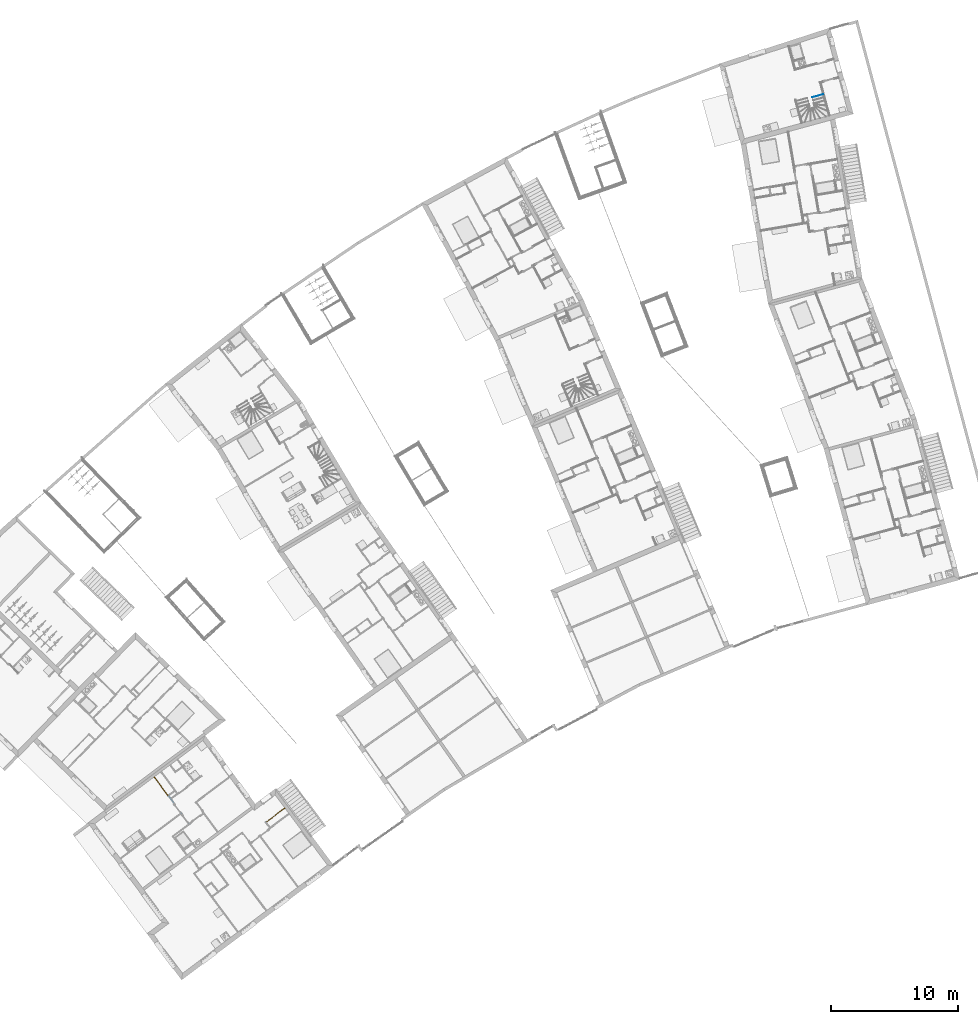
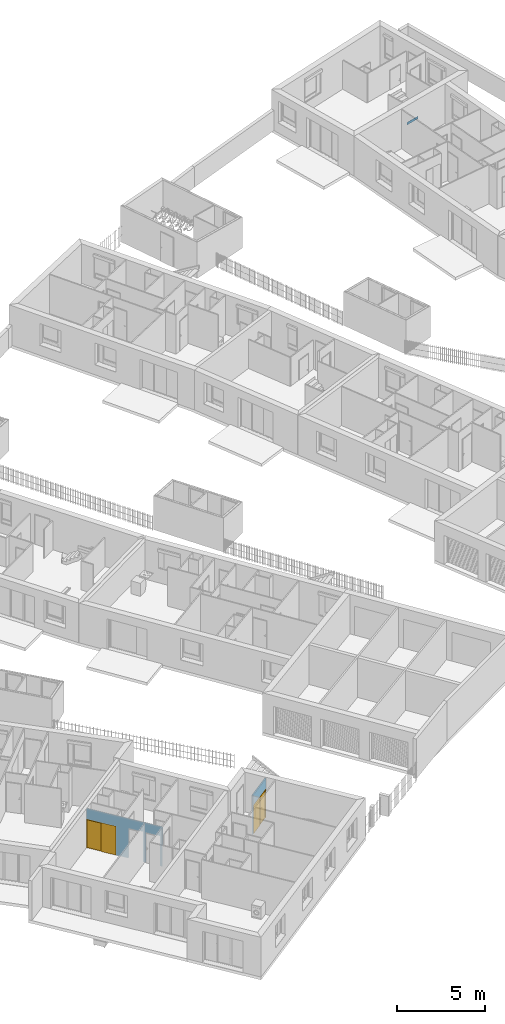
# One storey, part 106 of 195: 2 doors, 2 members, 4 openings, 2 elements without a shape of their own, plus 2 elements that do not belong to this part.
"""IFC2X3 building model written with IfcOpenShell, lengths in metres."""

from ifc_helpers import new_model, entity, si_unit, converted_unit, derived_unit, money_unit, direction, frame, origin_with_axes, origin_2d_with_axis, place, context, subcontext, project, spatial, polyline, rectangle, outline, extrude, open_shell, faceted_brep, surface_model, material, layer, layer_set, layer_usage, type_object, element, fill, aggregate, save


model = new_model("IFC2X3")

# Units and contexts
model_context = context("Model", 3, precision=1e-05, world=origin_with_axes(), true_north=direction((0.0, 1.0)))
body_context = subcontext(model_context, "Body", "Model", "MODEL_VIEW")
ifc_project = project(units=[si_unit("LENGTHUNIT", "METRE"), si_unit("AREAUNIT", "SQUARE_METRE"), si_unit("VOLUMEUNIT", "CUBIC_METRE"), converted_unit("PLANEANGLEUNIT", "DEGREE", entity("IfcPlaneAngleMeasure", 0.0174532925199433), si_unit("PLANEANGLEUNIT", "RADIAN"), dimensions=[0, 0, 0, 0, 0, 0, 0]), money_unit("CHF"), converted_unit("TIMEUNIT", "Year", entity("IfcTimeMeasure", 31557600.0), si_unit("TIMEUNIT", "SECOND"), dimensions=[0, 0, 1, 0, 0, 0, 0]), si_unit("MASSUNIT", "GRAM", prefix="KILO"), si_unit("THERMODYNAMICTEMPERATUREUNIT", "DEGREE_CELSIUS"), si_unit("LUMINOUSINTENSITYUNIT", "LUMEN"), si_unit("ENERGYUNIT", "JOULE", prefix="MEGA"), derived_unit("THERMALCONDUCTANCEUNIT", [(si_unit("POWERUNIT", "WATT"), 1), (si_unit("LENGTHUNIT", "METRE"), -1), (si_unit("THERMODYNAMICTEMPERATUREUNIT", "KELVIN"), -1)]), derived_unit("SPECIFICHEATCAPACITYUNIT", [(si_unit("ENERGYUNIT", "JOULE"), 1), (si_unit("MASSUNIT", "GRAM", prefix="KILO"), -1), (si_unit("THERMODYNAMICTEMPERATUREUNIT", "KELVIN"), -1)]), derived_unit("MASSDENSITYUNIT", [(si_unit("MASSUNIT", "GRAM", prefix="KILO"), 1), (si_unit("VOLUMEUNIT", "CUBIC_METRE"), -1)])], contexts=[model_context])

# Site, building, storey
site_placement = place(None, origin_with_axes())
site = spatial("IfcSite", under=ifc_project, at=site_placement, Name="Site", CompositionType="ELEMENT")
building_placement = place(site_placement, origin_with_axes())
building = spatial("IfcBuilding", under=site, at=building_placement, Name="Bâtiment", CompositionType="ELEMENT")
storey_placement = place(building_placement, origin_with_axes())
storey = spatial("IfcBuildingStorey", under=building, at=storey_placement, Name="rdc", CompositionType="ELEMENT", Elevation=0.0)

# Stair, member
stair_1_placement = place(storey_placement, frame((9586.532297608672, -1019.891691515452, 57.0), z_axis=(0.0, 0.0, 1.0), x_axis=(0.2627338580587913, -0.9648683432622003, 0.0)))
stair_1 = element("IfcStair", 1, at=stair_1_placement, inside=storey, Name="ESC-014", ShapeType="NOTDEFINED")
ifc_material_1 = material(Name="Lame d'air 275581351")
member_type = type_object("IfcMemberType", Name="IfcMember", PredefinedType="NOTDEFINED")
member_1_placement = place(stair_1_placement, frame((-0.8678427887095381, -0.4260619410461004, 0.1700000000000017), z_axis=(0.0, 0.0, 1.0), x_axis=(2.365009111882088e-07, -0.9999999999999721, 0.0)))
member_1 = element("IfcMember", 2, at=member_1_placement, type_object=member_type, material=ifc_material_1, Name="C-MARCHE-231", context=body_context, shape_type="Brep", body=[
    faceted_brep([(0.46, 0.01500000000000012, 0.0), (0.46, 0.02500000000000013, 0.0), (-0.44, 0.02500000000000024, 0.0), (-0.44, 0.01500000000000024, 0.0), (0.46, 0.01500000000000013, -0.17), (0.46, 0.02500000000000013, -0.17), (-0.44, 0.02500000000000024, -0.17), (-0.44, 0.01500000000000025, -0.17)], [[[0, 1, 2, 3]], [[0, 4, 5, 1]], [[1, 5, 6, 2]], [[3, 2, 6, 7]], [[4, 0, 3, 7]], [[5, 4, 7, 6]]]),
])
aggregate(stair_1, [member_1])

stair_2_placement = place(storey_placement, frame((9586.532297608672, -1019.891691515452, 57.0), z_axis=(0.0, 0.0, 1.0), x_axis=(0.2627338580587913, -0.9648683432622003, 0.0)))
stair_2 = element("IfcStair", 3, at=stair_2_placement, inside=storey, Name="ESC-014", ShapeType="NOTDEFINED")
member_2_placement = place(stair_2_placement, frame((-0.8678427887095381, -0.4260619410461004, 0.1700000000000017), z_axis=(0.0, 0.0, 1.0), x_axis=(2.365009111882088e-07, -0.9999999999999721, 0.0)))
member_2 = element("IfcMember", 4, at=member_2_placement, type_object=member_type, material=ifc_material_1, Name="C-MARCHE-231", context=body_context, shape_type="Brep", body=[
    faceted_brep([(0.46, 0.01500000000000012, 0.0), (0.46, 0.02500000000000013, 0.0), (-0.44, 0.02500000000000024, 0.0), (-0.44, 0.01500000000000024, 0.0), (0.46, 0.01500000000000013, -0.17), (0.46, 0.02500000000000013, -0.17), (-0.44, 0.02500000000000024, -0.17), (-0.44, 0.01500000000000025, -0.17)], [[[0, 1, 2, 3]], [[0, 4, 5, 1]], [[1, 5, 6, 2]], [[3, 2, 6, 7]], [[4, 0, 3, 7]], [[5, 4, 7, 6]]]),
])
aggregate(stair_2, [member_2])

# Wall, opening, door
ifc_material_2 = material(Name="Hachure solide 268963992")
ifc_layer = layer(ifc_material_2, 0.07, ventilated="UNKNOWN")
ifc_layer_set = layer_set([ifc_layer], Name="Cloison 70 0826278243")
ifc_layer_usage_1 = layer_usage(ifc_layer_set, "AXIS2", "NEGATIVE", 0.0)
wall_type = type_object("IfcWallType", Name="Cloison 70 0826278243 70", PredefinedType="NOTDEFINED")
wall_1_placement = place(storey_placement, frame((9542.236059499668, -1076.557805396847, 57.7), z_axis=(0.0, 0.0, 1.0), x_axis=(0.8011628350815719, 0.5984464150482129, 0.0)))
wall_1 = element("IfcWallStandardCase", 5, at=wall_1_placement, inside=storey, type_object=wall_type, material=ifc_layer_usage_1, Name="Mur-149", context=body_context, shape_type="SweptSolid", body=[
    extrude(outline(polyline([(0.0700000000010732, -0.07000000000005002), (1.913437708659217, -0.07000000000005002), (1.913437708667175, 0.0), (0.0, 0.0), (0.0700000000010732, -0.07000000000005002)])), origin_with_axes(), (0.0, 0.0, 1.0), 2.7),
])
opening_1_placement = place(wall_1_placement, frame((0.9917188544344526, 0.0, 0.0), z_axis=(0.0, 0.0, 1.0), x_axis=(1.0, 0.0, 0.0)))
opening_1 = element("IfcOpeningElement", 6, at=opening_1_placement, cuts=wall_1, Name="Por-344", context=body_context, shape_type="SweptSolid", body=[
    extrude(rectangle(XDim=1.843437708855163, YDim=2.0, at=origin_2d_with_axis()), frame((0.0, -0.07000000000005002, 1.0), z_axis=(0.0, 1.0, 0.0), x_axis=(1.0, 0.0, 0.0)), (0.0, 0.0, -1.0), 0.07),
    extrude(rectangle(XDim=1.843437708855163, YDim=2.0, at=origin_2d_with_axis()), frame((0.0, -0.07000000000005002, 1.0), z_axis=(0.0, -1.0, 0.0), x_axis=(1.0, 0.0, 0.0)), (0.0, 0.0, -1.0), 0.07),
])
door_style = type_object("IfcDoorStyle", ConstructionType="NOTDEFINED", OperationType="NOTDEFINED", ParameterTakesPrecedence=False, Sizeable=False)
door_1_placement = place(opening_1_placement, frame((0.921718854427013, 0.0, 0.0), z_axis=(0.0, 0.0, 1.0), x_axis=(-1.0, 0.0, 0.0)))
door_1 = element("IfcDoor", 7, at=door_1_placement, inside=storey, type_object=door_style, Name="Por-344", OverallHeight=2.0, OverallWidth=1.84344, context=body_context, shape_type="SurfaceModel", body=[
    faceted_brep([(1.843437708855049, 0.07000000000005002, 0.0), (1.803437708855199, 0.06999999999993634, 0.0), (1.803437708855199, 0.06999999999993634, 1.960000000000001), (0.03999999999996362, 0.06999999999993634, 1.960000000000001), (0.03999999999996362, 0.06999999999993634, 0.0), (0.0, 0.07000000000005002, 0.0), (0.0, 0.07000000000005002, 2.0), (1.843437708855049, 0.07000000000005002, 2.0), (1.843437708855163, 0.01999999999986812, 0.0), (1.803437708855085, 0.01999999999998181, 0.0), (1.803437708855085, 0.0300000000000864, 0.0), (1.803437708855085, 0.0300000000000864, 1.960000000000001), (0.03999999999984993, 0.02999999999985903, 1.960000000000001), (0.03999999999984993, 0.02999999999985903, 0.0), (0.03999999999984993, 0.01999999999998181, 0.0), (0.0, 0.01999999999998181, 0.0), (0.0, 0.01999999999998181, 2.0), (1.843437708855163, 0.01999999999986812, 2.0), (0.03999999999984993, 0.01999999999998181, 1.960000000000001), (1.803437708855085, 0.01999999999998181, 1.960000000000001)], [[[0, 1, 2, 3, 4, 5, 6, 7]], [[0, 8, 9, 10, 1]], [[1, 10, 11, 2]], [[2, 11, 12, 3]], [[3, 12, 13, 4]], [[5, 4, 13, 14, 15]], [[16, 6, 5, 15]], [[17, 7, 6, 16]], [[8, 0, 7, 17]], [[9, 8, 17, 16, 15, 14, 18, 19]], [[10, 9, 19, 11]], [[11, 19, 18, 12]], [[12, 18, 14, 13]]]),
    faceted_brep([(0.03999999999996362, 0.04999999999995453, 0.0), (0.9367188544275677, 0.04999999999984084, 0.0), (0.9367188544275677, 0.02999999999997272, 0.0), (0.03999999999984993, 0.02999999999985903, 0.0), (0.03999999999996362, 0.04999999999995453, 1.960000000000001), (0.9367188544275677, 0.04999999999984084, 1.960000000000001), (0.06999999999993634, 0.04999999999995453, 0.03000000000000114), (0.906718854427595, 0.04999999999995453, 0.03000000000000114), (0.906718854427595, 0.04999999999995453, 1.93), (0.06999999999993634, 0.04999999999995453, 1.93), (0.9367188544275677, 0.02999999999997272, 1.960000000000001), (0.03999999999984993, 0.02999999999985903, 1.960000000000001), (0.06999999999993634, 0.02999999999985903, 0.03000000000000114), (0.06999999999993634, 0.02999999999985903, 1.93), (0.9067188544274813, 0.02999999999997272, 1.93), (0.9067188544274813, 0.02999999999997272, 0.03000000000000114)], [[[0, 1, 2, 3]], [[0, 4, 5, 1], [6, 7, 8, 9]], [[1, 5, 10, 2]], [[3, 2, 10, 11], [12, 13, 14, 15]], [[4, 0, 3, 11]], [[5, 4, 11, 10]], [[7, 6, 12, 15]], [[8, 7, 15, 14]], [[9, 8, 14, 13]], [[6, 9, 13, 12]]]),
    surface_model("IfcShellBasedSurfaceModel", [(0.06999999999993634, 0.03999999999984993, 0.03000000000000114), (0.9067188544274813, 0.04000000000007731, 0.03000000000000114), (0.9067188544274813, 0.04000000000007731, 1.93), (0.06999999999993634, 0.03999999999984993, 1.93)], [open_shell([[[0, 1, 2, 3]]])]),
    faceted_brep([(0.9067188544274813, 0.07000000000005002, 0.0), (1.803437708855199, 0.06999999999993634, 0.0), (1.803437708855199, 0.04999999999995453, 0.0), (0.906718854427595, 0.04999999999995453, 0.0), (0.9067188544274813, 0.07000000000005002, 1.960000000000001), (1.803437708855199, 0.06999999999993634, 1.960000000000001), (1.803437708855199, 0.04999999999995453, 1.960000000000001), (0.906718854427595, 0.04999999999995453, 1.960000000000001)], [[[0, 1, 2, 3]], [[0, 4, 5, 1]], [[1, 5, 6, 2]], [[3, 2, 6, 7]], [[4, 0, 3, 7]], [[5, 4, 7, 6]]]),
])
fill(opening_1, door_1)

# Wall, openings, door
ifc_layer_usage_2 = layer_usage(ifc_layer_set, "AXIS2", "NEGATIVE", 0.0)
wall_2_placement = place(storey_placement, frame((9533.50699201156, -1072.963736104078, 57.7), z_axis=(0.0, 0.0, 1.0), x_axis=(0.5984464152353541, -0.8011628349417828, 0.0)))
wall_2 = element("IfcWallStandardCase", 8, at=wall_2_placement, inside=storey, type_object=wall_type, material=ifc_layer_usage_2, Name="Mur-149", context=body_context, shape_type="SweptSolid", body=[
    extrude(outline(polyline([(0.0, -0.06999999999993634), (4.682283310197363, -0.06999999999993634), (4.682283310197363, 0.0), (0.0, 0.0), (0.0, -0.06999999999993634)])), origin_with_axes(), (0.0, 0.0, 1.0), 2.7),
])
opening_2_placement = place(wall_2_placement, frame((3.043617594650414, 0.0, 0.0), z_axis=(0.0, 0.0, 1.0), x_axis=(1.0, 0.0, 0.0)))
element("IfcOpeningElement", 9, at=opening_2_placement, cuts=wall_2, Name="Por-310", context=body_context, shape_type="SweptSolid", body=[
    extrude(rectangle(XDim=0.9099999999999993, YDim=2.079999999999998, at=origin_2d_with_axis()), frame((0.0, 0.07000000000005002, 1.039999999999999), z_axis=(0.0, 1.0, 0.0), x_axis=(1.0, 0.0, 0.0)), (0.0, 0.0, -1.0), 0.14),
])
opening_3_placement = place(wall_2_placement, frame((4.093552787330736, 0.0, 0.0), z_axis=(0.0, 0.0, 1.0), x_axis=(1.0, 0.0, 0.0)))
element("IfcOpeningElement", 10, at=opening_3_placement, cuts=wall_2, Name="Por-310", context=body_context, shape_type="SweptSolid", body=[
    extrude(rectangle(XDim=0.9099999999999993, YDim=2.079999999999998, at=origin_2d_with_axis()), frame((0.0, 0.07000000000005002, 1.039999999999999), z_axis=(0.0, 1.0, 0.0), x_axis=(1.0, 0.0, 0.0)), (0.0, 0.0, -1.0), 0.14),
])
opening_4_placement = place(wall_2_placement, frame((0.9077533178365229, 0.0, 0.0), z_axis=(0.0, 0.0, 1.0), x_axis=(1.0, 0.0, 0.0)))
opening_4 = element("IfcOpeningElement", 11, at=opening_4_placement, cuts=wall_2, Name="Por-343", context=body_context, shape_type="SweptSolid", body=[
    extrude(rectangle(XDim=1.81550663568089, YDim=2.0, at=origin_2d_with_axis()), frame((0.0, -0.07000000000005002, 1.0), z_axis=(0.0, 1.0, 0.0), x_axis=(1.0, 0.0, 0.0)), (0.0, 0.0, -1.0), 0.07),
    extrude(rectangle(XDim=1.81550663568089, YDim=2.0, at=origin_2d_with_axis()), frame((0.0, -0.07000000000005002, 1.0), z_axis=(0.0, -1.0, 0.0), x_axis=(1.0, 0.0, 0.0)), (0.0, 0.0, -1.0), 0.07),
])
door_2_placement = place(opening_4_placement, frame((0.9077533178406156, 0.0, 0.0), z_axis=(0.0, 0.0, 1.0), x_axis=(-1.0, 0.0, 0.0)))
door_2 = element("IfcDoor", 12, at=door_2_placement, inside=storey, type_object=door_style, Name="Por-343", OverallHeight=2.0, OverallWidth=1.81551, context=body_context, shape_type="SurfaceModel", body=[
    faceted_brep([(0.0, 0.07000000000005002, 0.0), (0.0, 0.07000000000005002, 2.0), (1.81550663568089, 0.07000000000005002, 2.0), (1.81550663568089, 0.07000000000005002, 0.0), (1.775506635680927, 0.07000000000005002, 0.0), (1.775506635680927, 0.07000000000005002, 1.960000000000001), (0.03999999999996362, 0.07000000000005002, 1.960000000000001), (0.03999999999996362, 0.07000000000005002, 0.0), (0.0, 0.0200000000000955, 0.0), (0.0, 0.0200000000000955, 2.0), (1.81550663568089, 0.0200000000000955, 2.0), (1.81550663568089, 0.0200000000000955, 0.0), (1.775506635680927, 0.0200000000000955, 0.0), (1.775506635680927, 0.0300000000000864, 0.0), (1.775506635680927, 0.0300000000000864, 1.960000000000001), (0.03999999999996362, 0.02999999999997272, 1.960000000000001), (0.03999999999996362, 0.02999999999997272, 0.0), (0.03999999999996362, 0.0200000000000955, 0.0), (0.03999999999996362, 0.0200000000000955, 1.960000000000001), (1.775506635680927, 0.0200000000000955, 1.960000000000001)], [[[0, 1, 2, 3, 4, 5, 6, 7]], [[8, 9, 1, 0]], [[9, 10, 2, 1]], [[10, 11, 3, 2]], [[3, 11, 12, 13, 4]], [[5, 4, 13, 14]], [[6, 5, 14, 15]], [[7, 6, 15, 16]], [[0, 7, 16, 17, 8]], [[17, 18, 19, 12, 11, 10, 9, 8]], [[14, 13, 12, 19]], [[15, 14, 19, 18]], [[16, 15, 18, 17]]]),
    faceted_brep([(1.775506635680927, 0.04999999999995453, 0.0), (1.775506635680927, 0.0300000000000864, 0.0), (0.8927533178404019, 0.02999999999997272, 0.0), (0.8927533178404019, 0.05000000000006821, 0.0), (1.775506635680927, 0.04999999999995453, 1.960000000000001), (1.775506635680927, 0.0300000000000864, 1.960000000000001), (0.8927533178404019, 0.02999999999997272, 1.960000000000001), (1.74550663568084, 0.0300000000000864, 0.03000000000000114), (0.9227533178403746, 0.0300000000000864, 0.03000000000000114), (0.9227533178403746, 0.0300000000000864, 1.93), (1.74550663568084, 0.0300000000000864, 1.93), (0.8927533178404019, 0.05000000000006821, 1.960000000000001), (1.745506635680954, 0.05000000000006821, 0.03000000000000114), (1.745506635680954, 0.05000000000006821, 1.93), (0.9227533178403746, 0.05000000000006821, 1.93), (0.9227533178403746, 0.05000000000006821, 0.03000000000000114)], [[[0, 1, 2, 3]], [[4, 5, 1, 0]], [[1, 5, 6, 2], [7, 8, 9, 10]], [[3, 2, 6, 11]], [[0, 3, 11, 4], [12, 13, 14, 15]], [[11, 6, 5, 4]], [[15, 8, 7, 12]], [[14, 9, 8, 15]], [[13, 10, 9, 14]], [[12, 7, 10, 13]]]),
    surface_model("IfcShellBasedSurfaceModel", [(1.74550663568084, 0.04000000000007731, 0.03000000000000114), (1.74550663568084, 0.04000000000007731, 1.93), (0.9227533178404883, 0.04000000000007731, 1.93), (0.9227533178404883, 0.04000000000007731, 0.03000000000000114)], [open_shell([[[0, 1, 2, 3]]])]),
    faceted_brep([(0.9227533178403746, 0.07000000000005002, 0.0), (0.9227533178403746, 0.05000000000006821, 0.0), (0.03999999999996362, 0.05000000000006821, 0.0), (0.03999999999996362, 0.07000000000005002, 0.0), (0.9227533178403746, 0.07000000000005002, 1.960000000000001), (0.9227533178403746, 0.05000000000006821, 1.960000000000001), (0.03999999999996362, 0.05000000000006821, 1.960000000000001), (0.03999999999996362, 0.07000000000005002, 1.960000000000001)], [[[0, 1, 2, 3]], [[4, 5, 1, 0]], [[1, 5, 6, 2]], [[3, 2, 6, 7]], [[0, 3, 7, 4]], [[7, 6, 5, 4]]]),
])
fill(opening_4, door_2)

save(model, "model.ifc")
